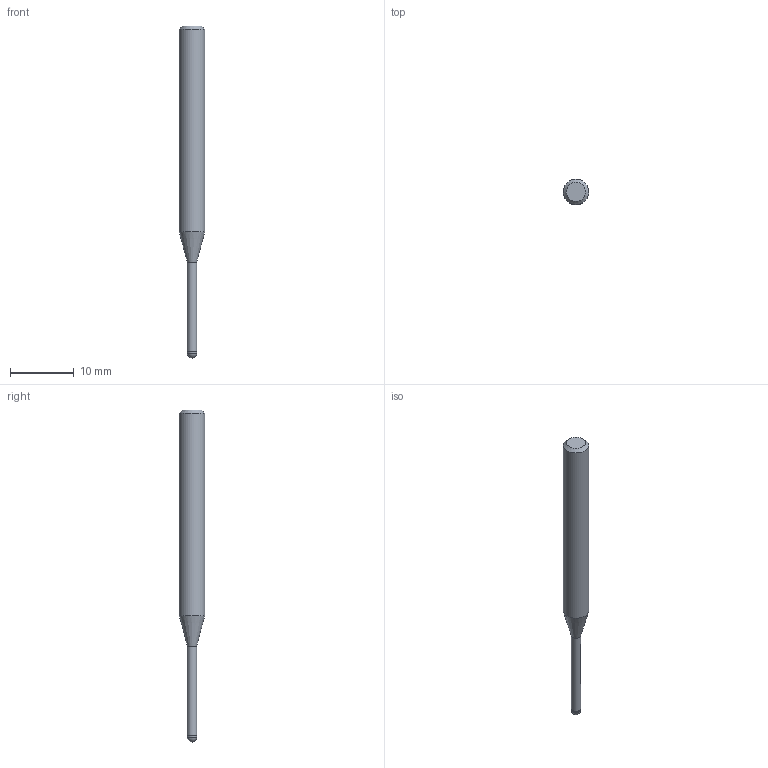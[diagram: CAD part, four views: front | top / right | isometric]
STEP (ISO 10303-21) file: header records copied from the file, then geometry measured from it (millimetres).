
FILE_DESCRIPTION((''),'2;1');
FILE_NAME('C:\Users\nsx150\AppData\Local\Temp\Mastercam 2021\LJSIDMOTM8\TEMP.step','2021-08-03T14:24:13',(''),(''),'STEP Write','Mastercam 2021 ... CNC Software, Inc.','');
FILE_SCHEMA(('AUTOMOTIVE_DESIGN'));
Length unit declared in the file: millimetre
Products named in the file (1): None
Bounding box: 4 x 4 x 52 mm (x, y, z)
Volume: 457.9 mm3; surface area: 527.8 mm2
Topology: 2 solids, 2 shells, 9 faces, 14 edges, 8 vertices
Faces by surface type: plane 3, cylinder 3, cone 2, sphere 1
Full cylindrical faces by diameter (mm): 1.45 x1, 1.5 x1, 4 x1
Entity records: 211 total; most frequent: DIRECTION 36, CARTESIAN_POINT 25, AXIS2_PLACEMENT_3D 18, ORIENTED_EDGE 14, EDGE_LOOP 14, STYLED_ITEM 12, ADVANCED_FACE 9, FACE_BOUND 8
